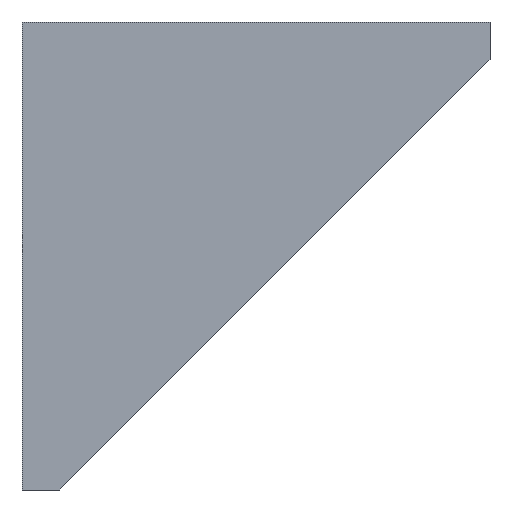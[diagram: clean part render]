
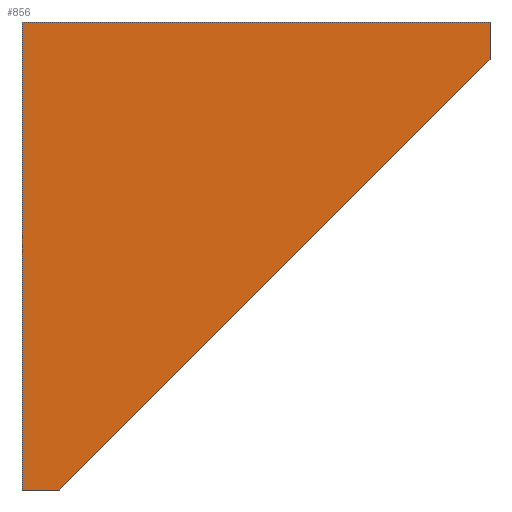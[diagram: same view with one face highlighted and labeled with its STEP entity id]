
A CAD part, front view. The second image highlights one B-rep face of the part: STEP entity #856.
In plain terms, the highlighted planar face has unit normal (0, -1, 0).
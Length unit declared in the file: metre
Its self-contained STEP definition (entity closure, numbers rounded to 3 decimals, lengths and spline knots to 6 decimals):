
#22=LINE('',#1159,#123);
#95=LINE('',#1330,#196);
#117=LINE('',#1377,#218);
#119=LINE('',#1381,#220);
#120=LINE('',#1383,#221);
#123=VECTOR('',#939,1.);
#196=VECTOR('',#1074,1.);
#218=VECTOR('',#1138,1.);
#220=VECTOR('',#1142,1.);
#221=VECTOR('',#1145,1.);
#437=ORIENTED_EDGE('',*,*,#557,.T.);
#438=ORIENTED_EDGE('',*,*,#559,.F.);
#439=ORIENTED_EDGE('',*,*,#535,.F.);
#440=ORIENTED_EDGE('',*,*,#452,.F.);
#441=ORIENTED_EDGE('',*,*,#560,.T.);
#452=EDGE_CURVE('',#565,#566,#22,.T.);
#535=EDGE_CURVE('',#566,#633,#95,.T.);
#557=EDGE_CURVE('',#637,#636,#117,.T.);
#559=EDGE_CURVE('',#633,#636,#119,.T.);
#560=EDGE_CURVE('',#565,#637,#120,.T.);
#565=VERTEX_POINT('',#1158);
#566=VERTEX_POINT('',#1160);
#633=VERTEX_POINT('',#1331);
#636=VERTEX_POINT('',#1376);
#637=VERTEX_POINT('',#1378);
#710=EDGE_LOOP('',(#437,#438,#439,#440,#441));
#772=FACE_BOUND('',#710,.T.);
#810=PLANE('',#927);
#856=ADVANCED_FACE('',(#772),#810,.F.);
#927=AXIS2_PLACEMENT_3D('',#1382,#1143,#1144);
#939=DIRECTION('',(0.,0.,1.));
#1074=DIRECTION('',(1.,0.,0.));
#1138=DIRECTION('',(0.707,0.,0.707));
#1142=DIRECTION('',(0.,0.,-1.));
#1143=DIRECTION('',(0.,1.,0.));
#1144=DIRECTION('',(1.,0.,0.));
#1145=DIRECTION('',(1.,0.,0.));
#1158=CARTESIAN_POINT('',(0.,0.,-0.05));
#1159=CARTESIAN_POINT('',(0.,0.,-0.05));
#1160=CARTESIAN_POINT('',(0.,0.,0.));
#1330=CARTESIAN_POINT('',(0.,0.,0.));
#1331=CARTESIAN_POINT('',(0.05,0.,0.));
#1376=CARTESIAN_POINT('',(0.05,0.,-0.004));
#1377=CARTESIAN_POINT('',(0.01575,0.,-0.03825));
#1378=CARTESIAN_POINT('',(0.004,0.,-0.05));
#1381=CARTESIAN_POINT('',(0.05,0.,0.));
#1382=CARTESIAN_POINT('',(0.025,0.,-0.025));
#1383=CARTESIAN_POINT('',(0.,0.,-0.05));
